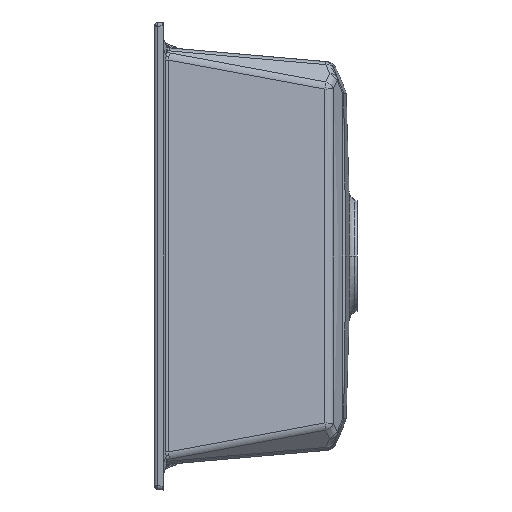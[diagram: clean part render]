
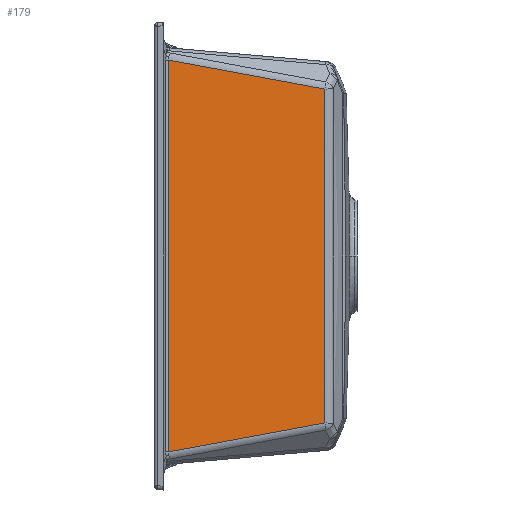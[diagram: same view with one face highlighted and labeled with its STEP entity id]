
A CAD part, left-side view. The second image highlights one B-rep face of the part: STEP entity #179.
In plain terms, the highlighted planar face has unit normal (-0.996, -0.087, 0).
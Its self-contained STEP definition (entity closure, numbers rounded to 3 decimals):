
#179 = ADVANCED_FACE ( 'NONE', ( #25134 ), #30378, .T. ) ;
#969 = ORIENTED_EDGE ( 'NONE', *, *, #6983, .T. ) ;
#4997 = CARTESIAN_POINT ( 'NONE',  ( 40.192, -171.993, -428.361 ) ) ;
#6983 = EDGE_CURVE ( 'NONE', #12333, #28582, #9145, .T. ) ;
#7677 = VERTEX_POINT ( 'NONE', #4997 ) ;
#7761 = DIRECTION ( 'NONE',  ( 0., 0., -1. ) ) ;
#8020 = VECTOR ( 'NONE', #20407, 1000. ) ;
#8070 = ORIENTED_EDGE ( 'NONE', *, *, #17622, .T. ) ;
#9145 = LINE ( 'NONE', #22616, #9929 ) ;
#9188 = CARTESIAN_POINT ( 'NONE',  ( 40.192, -171.993, -428.361 ) ) ;
#9929 = VECTOR ( 'NONE', #7761, 1000. ) ;
#10325 = DIRECTION ( 'NONE',  ( 0.087, -0.996, 0. ) ) ;
#12333 = VERTEX_POINT ( 'NONE', #30050 ) ;
#12835 = LINE ( 'NONE', #31469, #31819 ) ;
#12849 = DIRECTION ( 'NONE',  ( -0.996, -0.087, 0. ) ) ;
#12895 = VERTEX_POINT ( 'NONE', #22933 ) ;
#13218 = EDGE_CURVE ( 'NONE', #28582, #7677, #12835, .T. ) ;
#14185 = CARTESIAN_POINT ( 'NONE',  ( 40.368, -174.012, -190.54 ) ) ;
#16696 = CARTESIAN_POINT ( 'NONE',  ( 40.192, -171.993, -71.639 ) ) ;
#16948 = AXIS2_PLACEMENT_3D ( 'NONE', #29094, #12849, #10325 ) ;
#17622 = EDGE_CURVE ( 'NONE', #7677, #12895, #21570, .T. ) ;
#17877 = CARTESIAN_POINT ( 'NONE',  ( 30.999, -66.916, -52.126 ) ) ;
#20407 = DIRECTION ( 'NONE',  ( -0.086, 0.98, 0.182 ) ) ;
#21245 = LINE ( 'NONE', #17877, #8020 ) ;
#21570 = B_SPLINE_CURVE_WITH_KNOTS ( 'NONE', 3,
 ( #9188, #26550, #29043, #14185, #31530, #16696 ),
 .UNSPECIFIED., .F., .F.,
 ( 4, 2, 4 ),
 ( 0., 0.178, 0.357 ),
 .UNSPECIFIED. ) ;
#21745 = DIRECTION ( 'NONE',  ( 0.086, -0.98, 0.182 ) ) ;
#22616 = CARTESIAN_POINT ( 'NONE',  ( 25.609, -5.308, -459.78 ) ) ;
#22933 = CARTESIAN_POINT ( 'NONE',  ( 40.192, -171.993, -71.639 ) ) ;
#25134 = FACE_OUTER_BOUND ( 'NONE', #30423, .T. ) ;
#26550 = CARTESIAN_POINT ( 'NONE',  ( 40.294, -173.166, -368.914 ) ) ;
#26706 = EDGE_CURVE ( 'NONE', #12895, #12333, #21245, .T. ) ;
#27137 = CARTESIAN_POINT ( 'NONE',  ( 25.609, -5.308, -459.315 ) ) ;
#28582 = VERTEX_POINT ( 'NONE', #27137 ) ;
#29043 = CARTESIAN_POINT ( 'NONE',  ( 40.368, -174.012, -309.459 ) ) ;
#29094 = CARTESIAN_POINT ( 'NONE',  ( 24.33, 9.303, -465.7 ) ) ;
#30050 = CARTESIAN_POINT ( 'NONE',  ( 25.609, -5.308, -40.685 ) ) ;
#30378 = PLANE ( 'NONE',  #16948 ) ;
#30423 = EDGE_LOOP ( 'NONE', ( #32113, #969, #31374, #8070 ) ) ;
#31374 = ORIENTED_EDGE ( 'NONE', *, *, #13218, .T. ) ;
#31469 = CARTESIAN_POINT ( 'NONE',  ( 24.273, 9.957, -462.15 ) ) ;
#31530 = CARTESIAN_POINT ( 'NONE',  ( 40.294, -173.166, -131.086 ) ) ;
#31819 = VECTOR ( 'NONE', #21745, 1000. ) ;
#32113 = ORIENTED_EDGE ( 'NONE', *, *, #26706, .T. ) ;
